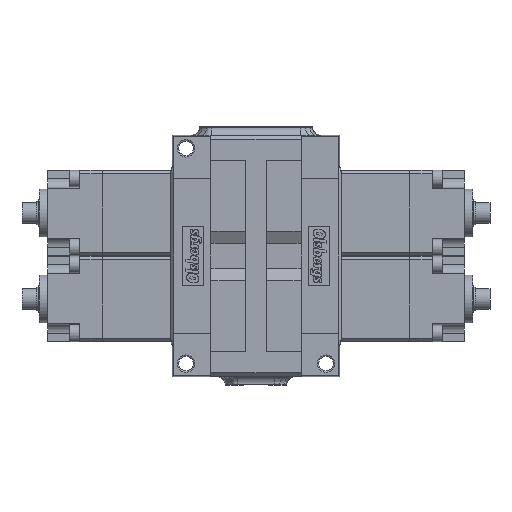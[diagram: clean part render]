
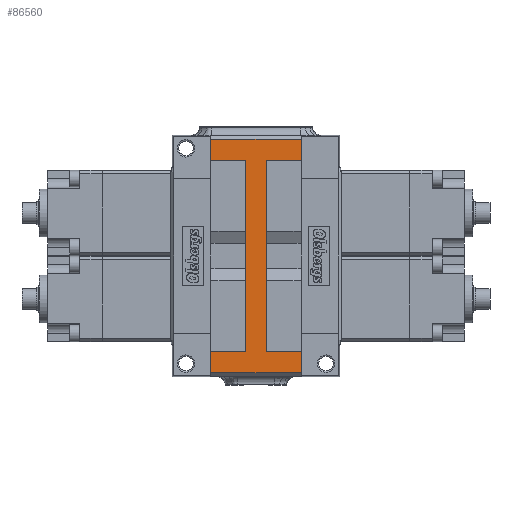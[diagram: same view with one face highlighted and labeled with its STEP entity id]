
A CAD part, front view. The second image highlights one B-rep face of the part: STEP entity #86560.
In plain terms, the highlighted planar face has unit normal (0, -1, 0).
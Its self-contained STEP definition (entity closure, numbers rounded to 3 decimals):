
#585 = ORIENTED_EDGE ( 'NONE', *, *, #76544, .F. ) ;
#696 = EDGE_CURVE ( 'NONE', #16819, #70602, #70650, .T. ) ;
#951 = CARTESIAN_POINT ( 'NONE',  ( -52., -27., -70.75 ) ) ;
#1182 = EDGE_CURVE ( 'NONE', #53791, #23636, #83524, .T. ) ;
#1464 = VECTOR ( 'NONE', #6361, 1000. ) ;
#1686 = CARTESIAN_POINT ( 'NONE',  ( 26.529, -27., -55.75 ) ) ;
#1993 = ORIENTED_EDGE ( 'NONE', *, *, #85116, .T. ) ;
#3945 = CARTESIAN_POINT ( 'NONE',  ( -26.529, -27., 68.314 ) ) ;
#4178 = VECTOR ( 'NONE', #42443, 1000. ) ;
#4697 = DIRECTION ( 'NONE',  ( 1., 0., 0. ) ) ;
#5482 = CARTESIAN_POINT ( 'NONE',  ( 26.529, -27., 55.75 ) ) ;
#6361 = DIRECTION ( 'NONE',  ( -1., 0., 0. ) ) ;
#8198 = EDGE_CURVE ( 'NONE', #22184, #43867, #48886, .T. ) ;
#8500 = EDGE_CURVE ( 'NONE', #70602, #59943, #45609, .T. ) ;
#9395 = DIRECTION ( 'NONE',  ( 0., 0., 1. ) ) ;
#9567 = CARTESIAN_POINT ( 'NONE',  ( -26.529, -27., -68.314 ) ) ;
#10043 = VECTOR ( 'NONE', #86507, 1000. ) ;
#11078 = VECTOR ( 'NONE', #59301, 1000. ) ;
#14590 = VERTEX_POINT ( 'NONE', #89205 ) ;
#15477 = ORIENTED_EDGE ( 'NONE', *, *, #35664, .F. ) ;
#16384 = CARTESIAN_POINT ( 'NONE',  ( -26.529, -27., 55.75 ) ) ;
#16819 = VERTEX_POINT ( 'NONE', #54974 ) ;
#18201 = CARTESIAN_POINT ( 'NONE',  ( 26.529, -27., -70.279 ) ) ;
#18274 = CARTESIAN_POINT ( 'NONE',  ( -26.529, -27., -55.75 ) ) ;
#21590 = ORIENTED_EDGE ( 'NONE', *, *, #72945, .F. ) ;
#22184 = VERTEX_POINT ( 'NONE', #33885 ) ;
#22861 = CARTESIAN_POINT ( 'NONE',  ( -26.529, -27., -55.75 ) ) ;
#23636 = VERTEX_POINT ( 'NONE', #5482 ) ;
#23902 = ORIENTED_EDGE ( 'NONE', *, *, #696, .F. ) ;
#25617 = EDGE_CURVE ( 'NONE', #65893, #88589, #47702, .T. ) ;
#27238 = ORIENTED_EDGE ( 'NONE', *, *, #83960, .F. ) ;
#28471 = VECTOR ( 'NONE', #55073, 1000. ) ;
#28499 = FACE_OUTER_BOUND ( 'NONE', #41661, .T. ) ;
#29043 = ORIENTED_EDGE ( 'NONE', *, *, #31371, .F. ) ;
#29523 = LINE ( 'NONE', #18201, #11078 ) ;
#31371 = EDGE_CURVE ( 'NONE', #65893, #75666, #65231, .T. ) ;
#33045 = ORIENTED_EDGE ( 'NONE', *, *, #8198, .F. ) ;
#33885 = CARTESIAN_POINT ( 'NONE',  ( 6., -27., -55.75 ) ) ;
#35664 = EDGE_CURVE ( 'NONE', #23636, #62378, #73364, .T. ) ;
#36508 = ORIENTED_EDGE ( 'NONE', *, *, #65818, .F. ) ;
#38148 = DIRECTION ( 'NONE',  ( 1., 0., 0. ) ) ;
#38979 = CARTESIAN_POINT ( 'NONE',  ( -26.529, -27., 70.279 ) ) ;
#39959 = AXIS2_PLACEMENT_3D ( 'NONE', #951, #49295, #9395 ) ;
#40322 = CARTESIAN_POINT ( 'NONE',  ( -26.529, -27., -70.279 ) ) ;
#41661 = EDGE_LOOP ( 'NONE', ( #23902, #36508, #585, #29043, #83265, #21590, #33045, #27238, #15477, #47588, #1993, #61387 ) ) ;
#42443 = DIRECTION ( 'NONE',  ( -1., 0., 0. ) ) ;
#43867 = VERTEX_POINT ( 'NONE', #1686 ) ;
#44558 = VECTOR ( 'NONE', #45684, 1000. ) ;
#45536 = VECTOR ( 'NONE', #38148, 1000. ) ;
#45609 = LINE ( 'NONE', #38979, #49933 ) ;
#45684 = DIRECTION ( 'NONE',  ( 1., 0., 0. ) ) ;
#47588 = ORIENTED_EDGE ( 'NONE', *, *, #1182, .F. ) ;
#47702 = LINE ( 'NONE', #51726, #45536 ) ;
#47732 = CARTESIAN_POINT ( 'NONE',  ( -26.529, -27., 55.75 ) ) ;
#48691 = PLANE ( 'NONE',  #39959 ) ;
#48886 = LINE ( 'NONE', #87014, #44558 ) ;
#49019 = CARTESIAN_POINT ( 'NONE',  ( 6., -27., 55.75 ) ) ;
#49295 = DIRECTION ( 'NONE',  ( 0., 1., 0. ) ) ;
#49464 = VECTOR ( 'NONE', #57434, 1000. ) ;
#49933 = VECTOR ( 'NONE', #72512, 1000. ) ;
#50352 = CARTESIAN_POINT ( 'NONE',  ( 6., -27., 55.75 ) ) ;
#50361 = CARTESIAN_POINT ( 'NONE',  ( -6., -27., 55.75 ) ) ;
#50970 = CARTESIAN_POINT ( 'NONE',  ( 26.529, -27., 68.314 ) ) ;
#51726 = CARTESIAN_POINT ( 'NONE',  ( 26.529, -27., -68.314 ) ) ;
#52265 = DIRECTION ( 'NONE',  ( -1., 0., 0. ) ) ;
#52480 = VECTOR ( 'NONE', #52265, 1000. ) ;
#53791 = VERTEX_POINT ( 'NONE', #50970 ) ;
#54641 = LINE ( 'NONE', #3945, #52480 ) ;
#54974 = CARTESIAN_POINT ( 'NONE',  ( -6., -27., 55.75 ) ) ;
#55073 = DIRECTION ( 'NONE',  ( 0., 0., 1. ) ) ;
#56217 = VECTOR ( 'NONE', #78461, 1000. ) ;
#57434 = DIRECTION ( 'NONE',  ( 0., 0., -1. ) ) ;
#59301 = DIRECTION ( 'NONE',  ( 0., 0., -1. ) ) ;
#59943 = VERTEX_POINT ( 'NONE', #63006 ) ;
#61387 = ORIENTED_EDGE ( 'NONE', *, *, #8500, .F. ) ;
#62378 = VERTEX_POINT ( 'NONE', #50352 ) ;
#62769 = LINE ( 'NONE', #50361, #56217 ) ;
#63006 = CARTESIAN_POINT ( 'NONE',  ( -26.529, -27., 68.314 ) ) ;
#63158 = VECTOR ( 'NONE', #4697, 1000. ) ;
#65231 = LINE ( 'NONE', #40322, #28471 ) ;
#65696 = CARTESIAN_POINT ( 'NONE',  ( 26.529, -27., -68.314 ) ) ;
#65818 = EDGE_CURVE ( 'NONE', #14590, #16819, #62769, .T. ) ;
#65893 = VERTEX_POINT ( 'NONE', #9567 ) ;
#66032 = CARTESIAN_POINT ( 'NONE',  ( 26.529, -27., 70.279 ) ) ;
#67827 = LINE ( 'NONE', #49019, #49464 ) ;
#69639 = CARTESIAN_POINT ( 'NONE',  ( 26.529, -27., 55.75 ) ) ;
#70602 = VERTEX_POINT ( 'NONE', #16384 ) ;
#70650 = LINE ( 'NONE', #47732, #1464 ) ;
#72512 = DIRECTION ( 'NONE',  ( 0., 0., 1. ) ) ;
#72945 = EDGE_CURVE ( 'NONE', #43867, #88589, #29523, .T. ) ;
#73364 = LINE ( 'NONE', #69639, #4178 ) ;
#75666 = VERTEX_POINT ( 'NONE', #22861 ) ;
#76544 = EDGE_CURVE ( 'NONE', #75666, #14590, #79380, .T. ) ;
#78461 = DIRECTION ( 'NONE',  ( 0., 0., 1. ) ) ;
#79380 = LINE ( 'NONE', #18274, #63158 ) ;
#83265 = ORIENTED_EDGE ( 'NONE', *, *, #25617, .T. ) ;
#83524 = LINE ( 'NONE', #66032, #10043 ) ;
#83960 = EDGE_CURVE ( 'NONE', #62378, #22184, #67827, .T. ) ;
#85116 = EDGE_CURVE ( 'NONE', #53791, #59943, #54641, .T. ) ;
#86507 = DIRECTION ( 'NONE',  ( 0., 0., -1. ) ) ;
#86560 = ADVANCED_FACE ( 'NONE', ( #28499 ), #48691, .F. ) ;
#87014 = CARTESIAN_POINT ( 'NONE',  ( 26.529, -27., -55.75 ) ) ;
#88589 = VERTEX_POINT ( 'NONE', #65696 ) ;
#89205 = CARTESIAN_POINT ( 'NONE',  ( -6., -27., -55.75 ) ) ;
